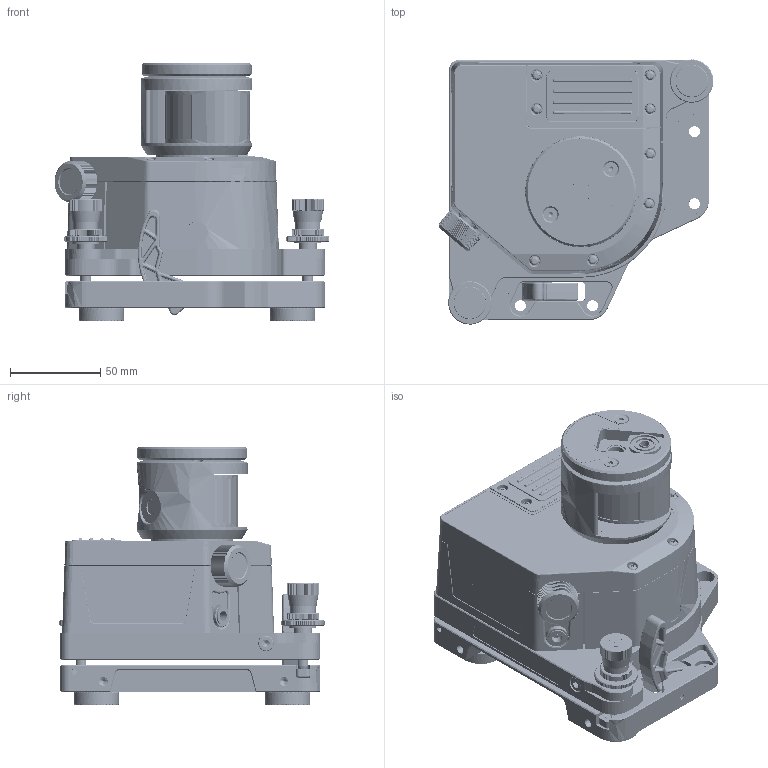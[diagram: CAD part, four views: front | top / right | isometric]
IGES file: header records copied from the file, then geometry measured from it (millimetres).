
Global section: file name: M-9971-0200-01-B_XK20 LAUNCH UNIT _altrep_M-9971-0200-01-B-alt1_.igs; native system: NX V2312; preprocessor: SIEMENS PLM Software NX2312.8103; date: 20250828.102716; units: millimetre
Bounding box: 152.31 x 147 x 142.8 mm (x, y, z)
Surface area: 159697.9 mm2 (no closed solid volume)
Topology: 0 solids, 0 shells, 6133 faces, 38809 edges, 39263 vertices
Faces by surface type: bspline 6133
